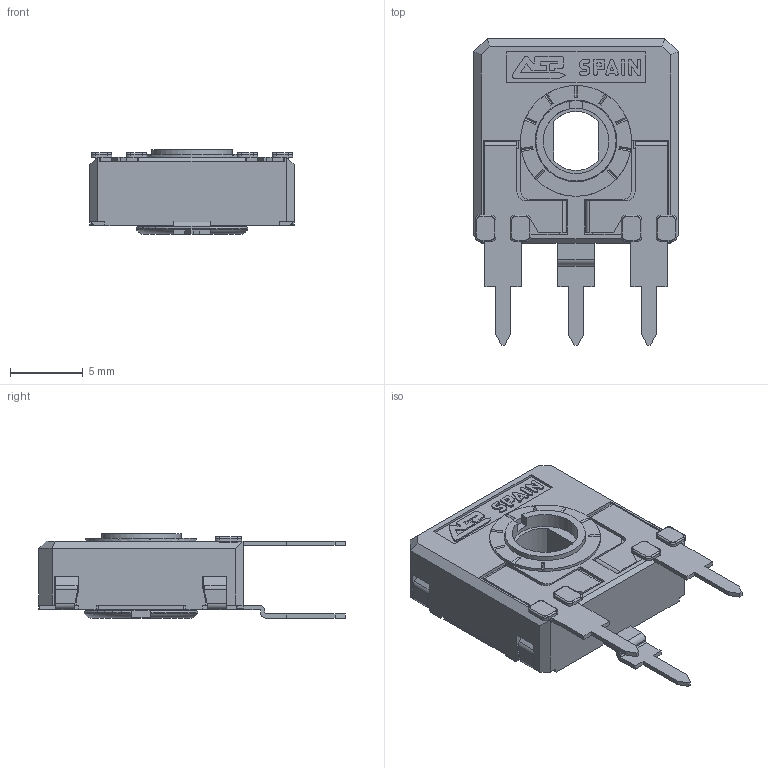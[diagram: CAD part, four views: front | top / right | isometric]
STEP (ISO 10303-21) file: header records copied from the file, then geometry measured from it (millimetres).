
FILE_DESCRIPTION(/* description */ (''),/* implementation_level */ '2;1');
FILE_NAME(/* name */ '\\SERVERACP\intercambio\Ignacio Santa Cecilia\Nueva WEB 2025\CA14 - CE14\CA14ZH5.stp',/* time_stamp */ '2025-07-01T10:43:35+02:00',/* author */ ('CEM'),/* organization */ (''),/* preprocessor_version */ 'ST-DEVELOPER v17',/* originating_system */ 'Autodesk Inventor 2018',/* authorisation */ '');
FILE_SCHEMA (('AUTOMOTIVE_DESIGN { 1 0 10303 214 3 1 1 }'));
Length unit declared in the file: millimetre
Products named in the file (1): CARCASA CA14 PGA
Bounding box: 14 x 21 x 5.8 mm (x, y, z)
Volume: 529.4 mm3; surface area: 1449.1 mm2
Topology: 1 solids, 1 shells, 666 faces, 1881 edges, 1211 vertices
Faces by surface type: plane 494, cylinder 135, torus 23, bspline 8, cone 6
Full cylindrical faces by diameter (mm): 4.5 x1, 5.5 x1, 5.6 x1, 5.752 x1, 6.8 x1, 7.6 x1
Entity records: 21747 total; most frequent: CARTESIAN_POINT 4056, ORIENTED_EDGE 3762, DIRECTION 3509, EDGE_CURVE 1881, LINE 1481, VECTOR 1481, VERTEX_POINT 1211, AXIS2_PLACEMENT_3D 1014
